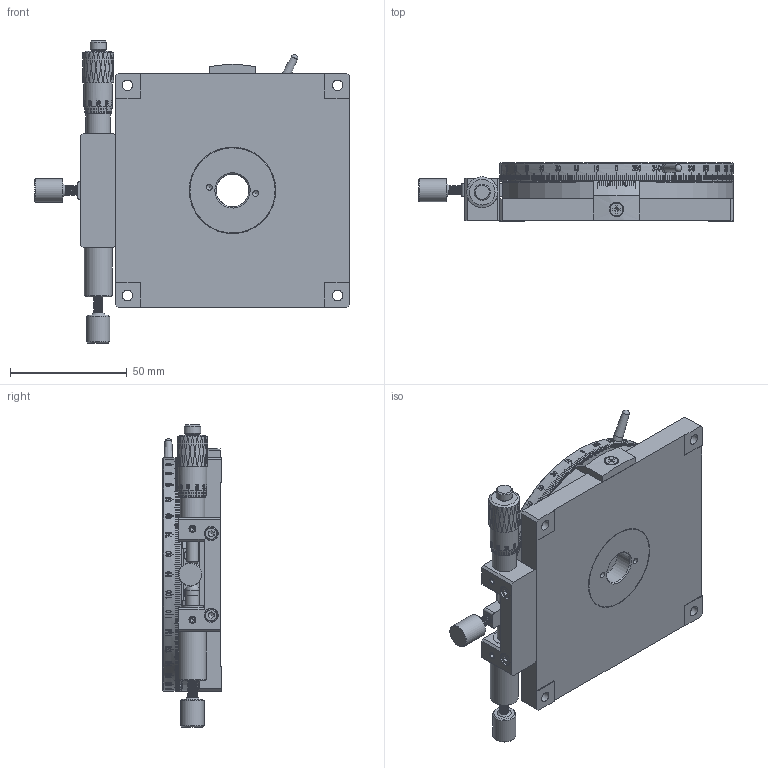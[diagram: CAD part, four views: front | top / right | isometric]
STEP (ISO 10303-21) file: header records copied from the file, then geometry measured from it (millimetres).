
FILE_DESCRIPTION (( 'STEP AP203' ), '1' );
FILE_NAME ('BPR100.STEP', '2024-07-09T12:22:09', ( 'Windows User' ), ( 'P R C' ), 'SwSTEP 2.0', 'SolidWorks 2024', '' );
FILE_SCHEMA (( 'CONFIG_CONTROL_DESIGN' ));
Products named in the file (1): BPR100
Bounding box: 134.7 x 25 x 129.36 mm (x, y, z)
Volume: 214706.4 mm3; surface area: 85694.2 mm2
Topology: 23 solids, 23 shells, 2812 faces, 8847 edges, 6364 vertices
Faces by surface type: plane 1833, bspline 402, cylinder 383, cone 172, torus 20, sphere 2
Full cylindrical faces by diameter (mm): 2.05 x2, 2.5 x19, 2.6 x1, 2.8 x1, 2.85 x1, 2.9 x2, 3 x5, 3.2 x2, 3.3 x10, 3.4 x2, 4 x2, 4.5 x4, 5 x5, 5.3 x1, 5.5 x3, 6 x4, 7 x1, 8 x4, 8.5 x1, 8.8 x1, 9.5 x5, 10 x2, 10.5 x1, 12 x1, 12.2 x1, 14 x1, 14.1 x1, 15 x7, 16 x2, 23 x1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
Entity records: 164366 total; most frequent: CARTESIAN_POINT 91876, ORIENTED_EDGE 17142, DIRECTION 11620, EDGE_CURVE 8571, VERTEX_POINT 6301, VECTOR 4272, LINE 4272, AXIS2_PLACEMENT_3D 3674
